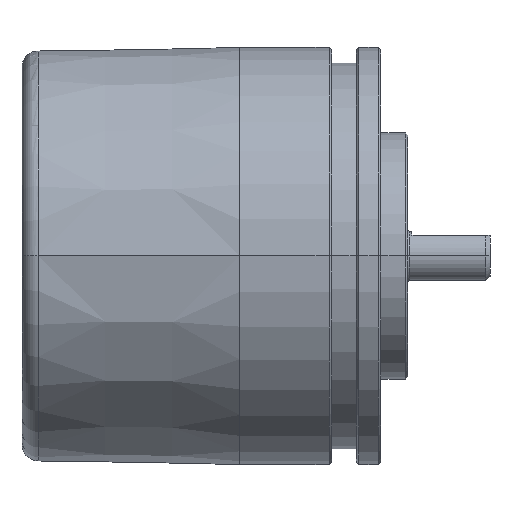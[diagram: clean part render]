
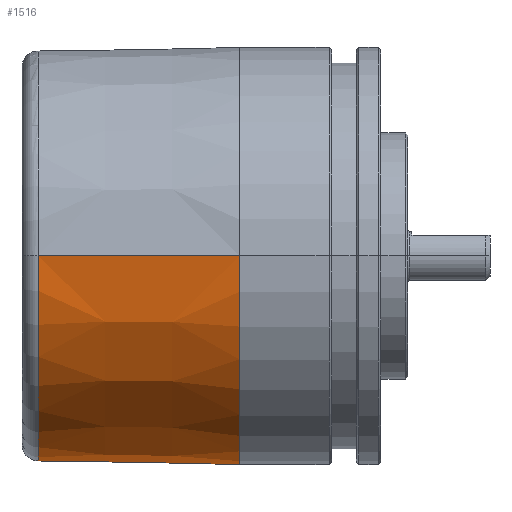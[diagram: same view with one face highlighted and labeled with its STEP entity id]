
A CAD part, top view. The second image highlights one B-rep face of the part: STEP entity #1516.
In plain terms, the highlighted conical face has half-angle 1 degrees and reference radius 25.4 mm.
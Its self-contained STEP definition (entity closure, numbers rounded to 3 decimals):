
#1452 = ORIENTED_EDGE ( 'NONE', *, *, #1525, .T. ) ;
#1475 = VERTEX_POINT ( 'NONE', #9682 ) ;
#1477 = ORIENTED_EDGE ( 'NONE', *, *, #1478, .F. ) ;
#1478 = EDGE_CURVE ( 'NONE', #1479, #1524, #9680, .T. ) ;
#1479 = VERTEX_POINT ( 'NONE', #9679 ) ;
#1480 = ORIENTED_EDGE ( 'NONE', *, *, #1482, .T. ) ;
#1482 = EDGE_CURVE ( 'NONE', #1479, #1475, #9718, .T. ) ;
#1514 = EDGE_LOOP ( 'NONE', ( #1517, #1519, #1522, #1477, #1480, #1452 ) ) ;
#1516 = ADVANCED_FACE ( 'NONE', ( #9748 ), #9785, .T. ) ;
#1517 = ORIENTED_EDGE ( 'NONE', *, *, #11865, .F. ) ;
#1519 = ORIENTED_EDGE ( 'NONE', *, *, #1520, .T. ) ;
#1520 = EDGE_CURVE ( 'NONE', #11927, #1521, #9781, .T. ) ;
#1521 = VERTEX_POINT ( 'NONE', #9837 ) ;
#1522 = ORIENTED_EDGE ( 'NONE', *, *, #1523, .T. ) ;
#1523 = EDGE_CURVE ( 'NONE', #1521, #1524, #9835, .T. ) ;
#1524 = VERTEX_POINT ( 'NONE', #9834 ) ;
#1525 = EDGE_CURVE ( 'NONE', #1475, #11870, #9836, .T. ) ;
#9672 = CARTESIAN_POINT ( 'NONE',  ( -19., -16.728, -18.542 ) ) ;
#9673 = CARTESIAN_POINT ( 'NONE',  ( -11.501, -16.586, -18.846 ) ) ;
#9675 = CARTESIAN_POINT ( 'NONE',  ( -4.001, -16.45, -19.137 ) ) ;
#9676 = CARTESIAN_POINT ( 'NONE',  ( 3.5, -16.319, -19.418 ) ) ;
#9679 = CARTESIAN_POINT ( 'NONE',  ( 3.5, -16.319, -19.418 ) ) ;
#9680 = B_SPLINE_CURVE_WITH_KNOTS ( 'NONE', 3,
 ( #9676, #9675, #9673, #9672 ),
 .UNSPECIFIED., .F., .F.,
 ( 4, 4 ),
 ( 0.002, 0.025 ),
 .UNSPECIFIED. ) ;
#9682 = CARTESIAN_POINT ( 'NONE',  ( 5.5, -12.989, -21.828 ) ) ;
#9694 = CARTESIAN_POINT ( 'NONE',  ( 5.5, -12.989, -21.828 ) ) ;
#9695 = CARTESIAN_POINT ( 'NONE',  ( 5.5, -13.341, -21.618 ) ) ;
#9697 = CARTESIAN_POINT ( 'NONE',  ( 5.461, -13.682, -21.403 ) ) ;
#9698 = CARTESIAN_POINT ( 'NONE',  ( 5.317, -14.347, -20.96 ) ) ;
#9699 = CARTESIAN_POINT ( 'NONE',  ( 5.21, -14.672, -20.731 ) ) ;
#9700 = CARTESIAN_POINT ( 'NONE',  ( 4.995, -15.13, -20.392 ) ) ;
#9701 = CARTESIAN_POINT ( 'NONE',  ( 4.914, -15.278, -20.28 ) ) ;
#9702 = CARTESIAN_POINT ( 'NONE',  ( 4.727, -15.562, -20.058 ) ) ;
#9704 = CARTESIAN_POINT ( 'NONE',  ( 4.62, -15.701, -19.947 ) ) ;
#9705 = CARTESIAN_POINT ( 'NONE',  ( 4.436, -15.89, -19.792 ) ) ;
#9706 = CARTESIAN_POINT ( 'NONE',  ( 4.37, -15.95, -19.742 ) ) ;
#9707 = CARTESIAN_POINT ( 'NONE',  ( 4.228, -16.062, -19.648 ) ) ;
#9708 = CARTESIAN_POINT ( 'NONE',  ( 4.151, -16.115, -19.603 ) ) ;
#9709 = CARTESIAN_POINT ( 'NONE',  ( 3.902, -16.252, -19.484 ) ) ;
#9710 = CARTESIAN_POINT ( 'NONE',  ( 3.708, -16.315, -19.426 ) ) ;
#9711 = CARTESIAN_POINT ( 'NONE',  ( 3.5, -16.319, -19.418 ) ) ;
#9718 = B_SPLINE_CURVE_WITH_KNOTS ( 'NONE', 3,
 ( #9711, #9710, #9709, #9708, #9707, #9706, #9705, #9704, #9702, #9701, #9700, #9699, #9698, #9697, #9695, #9694 ),
 .UNSPECIFIED., .F., .F.,
 ( 4, 2, 2, 2, 2, 2, 2, 4 ),
 ( 0., 0.001, 0.001, 0.001, 0.002, 0.002, 0.004, 0.005 ),
 .UNSPECIFIED. ) ;
#9748 = FACE_OUTER_BOUND ( 'NONE', #1514, .T. ) ;
#9777 = DIRECTION ( 'NONE',  ( 0., 0., -1. ) ) ;
#9778 = DIRECTION ( 'NONE',  ( 1., 0., 0. ) ) ;
#9779 = CARTESIAN_POINT ( 'NONE',  ( -19.035, 0., 0. ) ) ;
#9780 = AXIS2_PLACEMENT_3D ( 'NONE', #9779, #9778, #9777 ) ;
#9781 = CIRCLE ( 'NONE', #9780, 24.972 ) ;
#9782 = DIRECTION ( 'NONE',  ( 0., 0., 1. ) ) ;
#9783 = DIRECTION ( 'NONE',  ( 1., 0., 0. ) ) ;
#9784 = AXIS2_PLACEMENT_3D ( 'NONE', #9787, #9783, #9782 ) ;
#9785 = CONICAL_SURFACE ( 'NONE', #9784, 25.4, 0.017 ) ;
#9787 = CARTESIAN_POINT ( 'NONE',  ( 5.5, 0., 0. ) ) ;
#9826 = DIRECTION ( 'NONE',  ( 0., 0., -1. ) ) ;
#9827 = DIRECTION ( 'NONE',  ( -1., 0., 0. ) ) ;
#9828 = CARTESIAN_POINT ( 'NONE',  ( 5.5, 0., 0. ) ) ;
#9829 = AXIS2_PLACEMENT_3D ( 'NONE', #9828, #9827, #9826 ) ;
#9830 = CARTESIAN_POINT ( 'NONE',  ( -19., -16.728, -18.542 ) ) ;
#9831 = CARTESIAN_POINT ( 'NONE',  ( -19.012, -16.728, -18.541 ) ) ;
#9832 = CARTESIAN_POINT ( 'NONE',  ( -19.023, -16.728, -18.541 ) ) ;
#9833 = CARTESIAN_POINT ( 'NONE',  ( -19.035, -16.728, -18.541 ) ) ;
#9834 = CARTESIAN_POINT ( 'NONE',  ( -19., -16.728, -18.542 ) ) ;
#9835 = B_SPLINE_CURVE_WITH_KNOTS ( 'NONE', 3,
 ( #9833, #9832, #9831, #9830 ),
 .UNSPECIFIED., .F., .F.,
 ( 4, 4 ),
 ( 0., 0. ),
 .UNSPECIFIED. ) ;
#9836 = CIRCLE ( 'NONE', #9829, 25.4 ) ;
#9837 = CARTESIAN_POINT ( 'NONE',  ( -19.035, -16.728, -18.541 ) ) ;
#11865 = EDGE_CURVE ( 'NONE', #11927, #11870, #22199, .T. ) ;
#11870 = VERTEX_POINT ( 'NONE', #22195 ) ;
#11927 = VERTEX_POINT ( 'NONE', #22456 ) ;
#22195 = CARTESIAN_POINT ( 'NONE',  ( 5.5, 0., 25.4 ) ) ;
#22196 = DIRECTION ( 'NONE',  ( 1., 0., 0.017 ) ) ;
#22197 = VECTOR ( 'NONE', #22196, 1000. ) ;
#22198 = CARTESIAN_POINT ( 'NONE',  ( 5.5, 0., 25.4 ) ) ;
#22199 = LINE ( 'NONE', #22198, #22197 ) ;
#22456 = CARTESIAN_POINT ( 'NONE',  ( -19.035, 0., 24.972 ) ) ;
